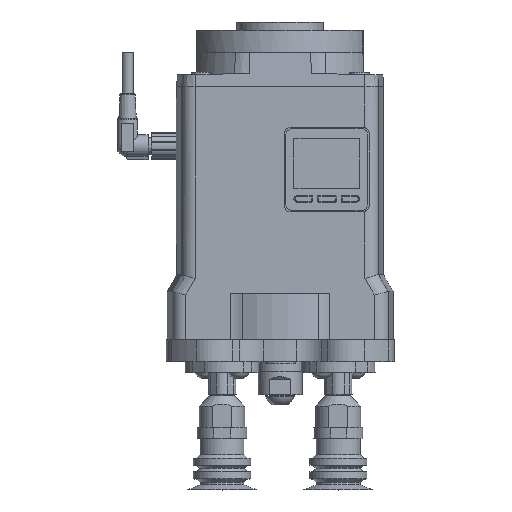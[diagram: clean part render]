
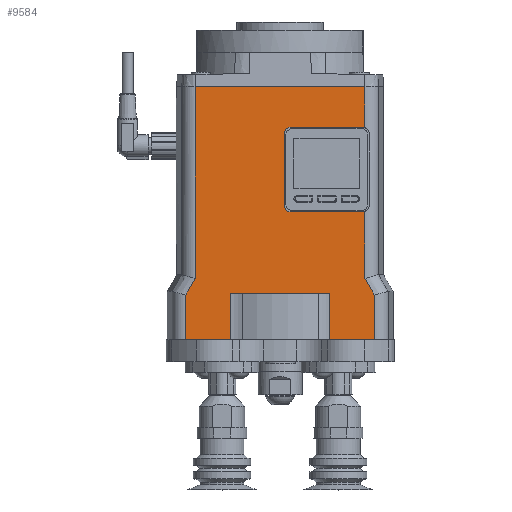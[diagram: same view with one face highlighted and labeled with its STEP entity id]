
A CAD part, top view. The second image highlights one B-rep face of the part: STEP entity #9584.
In plain terms, the highlighted planar face has unit normal (0, 0, 1).
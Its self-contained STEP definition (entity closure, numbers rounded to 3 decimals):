
#545=B_SPLINE_CURVE_WITH_KNOTS('',3,(#14973,#14974,#14975,#14976),
 .UNSPECIFIED.,.F.,.F.,(4,4),(0.,0.007),.UNSPECIFIED.);
#546=B_SPLINE_CURVE_WITH_KNOTS('',3,(#14992,#14993,#14994,#14995),
 .UNSPECIFIED.,.F.,.F.,(4,4),(0.,0.007),.UNSPECIFIED.);
#678=LINE('',#14950,#1363);
#679=LINE('',#14955,#1364);
#680=LINE('',#14959,#1365);
#681=LINE('',#14963,#1366);
#682=LINE('',#14967,#1367);
#683=LINE('',#14969,#1368);
#684=LINE('',#14971,#1369);
#685=LINE('',#14978,#1370);
#686=LINE('',#14980,#1371);
#687=LINE('',#14982,#1372);
#688=LINE('',#14984,#1373);
#689=LINE('',#14986,#1374);
#690=LINE('',#14988,#1375);
#691=LINE('',#14990,#1376);
#1363=VECTOR('',#11730,1000.);
#1364=VECTOR('',#11733,1000.);
#1365=VECTOR('',#11736,1000.);
#1366=VECTOR('',#11739,1000.);
#1367=VECTOR('',#11742,1000.);
#1368=VECTOR('',#11743,1000.);
#1369=VECTOR('',#11744,1000.);
#1370=VECTOR('',#11745,1000.);
#1371=VECTOR('',#11746,1000.);
#1372=VECTOR('',#11747,1000.);
#1373=VECTOR('',#11748,1000.);
#1374=VECTOR('',#11749,1000.);
#1375=VECTOR('',#11750,1000.);
#1376=VECTOR('',#11751,1000.);
#2110=ORIENTED_EDGE('',*,*,#4738,.T.);
#2111=ORIENTED_EDGE('',*,*,#4739,.T.);
#2112=ORIENTED_EDGE('',*,*,#4740,.T.);
#2113=ORIENTED_EDGE('',*,*,#4741,.T.);
#2114=ORIENTED_EDGE('',*,*,#4742,.T.);
#2115=ORIENTED_EDGE('',*,*,#4743,.T.);
#2116=ORIENTED_EDGE('',*,*,#4744,.T.);
#2117=ORIENTED_EDGE('',*,*,#4745,.T.);
#2118=ORIENTED_EDGE('',*,*,#4746,.T.);
#2119=ORIENTED_EDGE('',*,*,#4747,.F.);
#2120=ORIENTED_EDGE('',*,*,#4748,.T.);
#2121=ORIENTED_EDGE('',*,*,#4749,.T.);
#2122=ORIENTED_EDGE('',*,*,#4750,.T.);
#2123=ORIENTED_EDGE('',*,*,#4751,.F.);
#2124=ORIENTED_EDGE('',*,*,#4752,.F.);
#2125=ORIENTED_EDGE('',*,*,#4753,.F.);
#2126=ORIENTED_EDGE('',*,*,#4754,.T.);
#2127=ORIENTED_EDGE('',*,*,#4755,.F.);
#2128=ORIENTED_EDGE('',*,*,#4756,.T.);
#2129=ORIENTED_EDGE('',*,*,#4757,.T.);
#4738=EDGE_CURVE('',#6047,#6048,#678,.T.);
#4739=EDGE_CURVE('',#6048,#6049,#6931,.F.);
#4740=EDGE_CURVE('',#6049,#6050,#679,.T.);
#4741=EDGE_CURVE('',#6050,#6051,#6932,.F.);
#4742=EDGE_CURVE('',#6051,#6052,#680,.T.);
#4743=EDGE_CURVE('',#6052,#6053,#6933,.F.);
#4744=EDGE_CURVE('',#6053,#6054,#681,.T.);
#4745=EDGE_CURVE('',#6054,#6055,#6934,.F.);
#4746=EDGE_CURVE('',#6055,#6056,#682,.T.);
#4747=EDGE_CURVE('',#6057,#6056,#683,.T.);
#4748=EDGE_CURVE('',#6057,#6058,#684,.F.);
#4749=EDGE_CURVE('',#6058,#6059,#545,.T.);
#4750=EDGE_CURVE('',#6059,#6060,#685,.F.);
#4751=EDGE_CURVE('',#6061,#6060,#686,.T.);
#4752=EDGE_CURVE('',#6062,#6061,#687,.T.);
#4753=EDGE_CURVE('',#6063,#6062,#688,.T.);
#4754=EDGE_CURVE('',#6063,#6064,#689,.T.);
#4755=EDGE_CURVE('',#6065,#6064,#690,.T.);
#4756=EDGE_CURVE('',#6065,#6066,#691,.T.);
#4757=EDGE_CURVE('',#6066,#6047,#546,.T.);
#6047=VERTEX_POINT('',#14951);
#6048=VERTEX_POINT('',#14952);
#6049=VERTEX_POINT('',#14954);
#6050=VERTEX_POINT('',#14956);
#6051=VERTEX_POINT('',#14958);
#6052=VERTEX_POINT('',#14960);
#6053=VERTEX_POINT('',#14962);
#6054=VERTEX_POINT('',#14964);
#6055=VERTEX_POINT('',#14966);
#6056=VERTEX_POINT('',#14968);
#6057=VERTEX_POINT('',#14970);
#6058=VERTEX_POINT('',#14972);
#6059=VERTEX_POINT('',#14977);
#6060=VERTEX_POINT('',#14979);
#6061=VERTEX_POINT('',#14981);
#6062=VERTEX_POINT('',#14983);
#6063=VERTEX_POINT('',#14985);
#6064=VERTEX_POINT('',#14987);
#6065=VERTEX_POINT('',#14989);
#6066=VERTEX_POINT('',#14991);
#6931=CIRCLE('',#10416,2.5);
#6932=CIRCLE('',#10417,2.5);
#6933=CIRCLE('',#10418,2.5);
#6934=CIRCLE('',#10419,2.5);
#7421=EDGE_LOOP('',(#2110,#2111,#2112,#2113,#2114,#2115,#2116,#2117,#2118,
#2119,#2120,#2121,#2122,#2123,#2124,#2125,#2126,#2127,#2128,#2129));
#8338=FACE_BOUND('',#7421,.T.);
#9235=PLANE('',#10415);
#9584=ADVANCED_FACE('',(#8338),#9235,.T.);
#10415=AXIS2_PLACEMENT_3D('',#14949,#11728,#11729);
#10416=AXIS2_PLACEMENT_3D('',#14953,#11731,#11732);
#10417=AXIS2_PLACEMENT_3D('',#14957,#11734,#11735);
#10418=AXIS2_PLACEMENT_3D('',#14961,#11737,#11738);
#10419=AXIS2_PLACEMENT_3D('',#14965,#11740,#11741);
#11728=DIRECTION('',(0.,0.,1.));
#11729=DIRECTION('',(1.,0.,0.));
#11730=DIRECTION('',(0.,1.,0.));
#11731=DIRECTION('',(0.,0.,1.));
#11732=DIRECTION('',(1.,0.,0.));
#11733=DIRECTION('',(-1.,0.,0.));
#11734=DIRECTION('',(0.,0.,1.));
#11735=DIRECTION('',(1.,0.,0.));
#11736=DIRECTION('',(0.,1.,0.));
#11737=DIRECTION('',(0.,0.,1.));
#11738=DIRECTION('',(1.,0.,0.));
#11739=DIRECTION('',(1.,0.,0.));
#11740=DIRECTION('',(0.,0.,1.));
#11741=DIRECTION('',(1.,0.,0.));
#11742=DIRECTION('',(0.,1.,0.));
#11743=DIRECTION('',(1.,0.,0.));
#11744=DIRECTION('',(0.,1.,0.));
#11745=DIRECTION('',(0.,1.,0.));
#11746=DIRECTION('',(-1.,0.,0.));
#11747=DIRECTION('',(0.,-1.,0.));
#11748=DIRECTION('',(-1.,0.,0.));
#11749=DIRECTION('',(0.,-1.,0.));
#11750=DIRECTION('',(-1.,0.,0.));
#11751=DIRECTION('',(0.,1.,0.));
#14949=CARTESIAN_POINT('',(-35.101,-113.,29.));
#14950=CARTESIAN_POINT('',(30.95,-113.,29.));
#14951=CARTESIAN_POINT('',(30.95,-90.678,29.));
#14952=CARTESIAN_POINT('',(30.95,-66.232,29.));
#14953=CARTESIAN_POINT('',(30.05,-63.9,29.));
#14954=CARTESIAN_POINT('',(30.05,-66.4,29.));
#14955=CARTESIAN_POINT('',(-35.101,-66.4,29.));
#14956=CARTESIAN_POINT('',(4.05,-66.4,29.));
#14957=CARTESIAN_POINT('',(4.05,-63.9,29.));
#14958=CARTESIAN_POINT('',(1.55,-63.9,29.));
#14959=CARTESIAN_POINT('',(1.55,-113.,29.));
#14960=CARTESIAN_POINT('',(1.55,-37.9,29.));
#14961=CARTESIAN_POINT('',(4.05,-37.9,29.));
#14962=CARTESIAN_POINT('',(4.05,-35.4,29.));
#14963=CARTESIAN_POINT('',(-35.101,-35.4,29.));
#14964=CARTESIAN_POINT('',(30.05,-35.4,29.));
#14965=CARTESIAN_POINT('',(30.05,-37.9,29.));
#14966=CARTESIAN_POINT('',(30.95,-35.568,29.));
#14967=CARTESIAN_POINT('',(30.95,-113.,29.));
#14968=CARTESIAN_POINT('',(30.95,-20.6,29.));
#14969=CARTESIAN_POINT('',(-48.396,-20.6,29.));
#14970=CARTESIAN_POINT('',(-30.95,-20.6,29.));
#14971=CARTESIAN_POINT('',(-30.95,-113.,29.));
#14972=CARTESIAN_POINT('',(-30.95,-90.678,29.));
#14973=CARTESIAN_POINT('',(-30.95,-90.678,29.));
#14974=CARTESIAN_POINT('',(-32.134,-92.698,29.));
#14975=CARTESIAN_POINT('',(-33.317,-94.719,29.));
#14976=CARTESIAN_POINT('',(-34.5,-96.74,29.));
#14977=CARTESIAN_POINT('',(-34.5,-96.74,29.));
#14978=CARTESIAN_POINT('',(-34.5,-113.,29.));
#14979=CARTESIAN_POINT('',(-34.5,-113.,29.));
#14980=CARTESIAN_POINT('',(108.5,-113.,29.));
#14981=CARTESIAN_POINT('',(-18.111,-113.,29.));
#14982=CARTESIAN_POINT('',(-18.111,-96.2,29.));
#14983=CARTESIAN_POINT('',(-18.111,-96.2,29.));
#14984=CARTESIAN_POINT('',(-35.101,-96.2,29.));
#14985=CARTESIAN_POINT('',(18.111,-96.2,29.));
#14986=CARTESIAN_POINT('',(18.111,-96.2,29.));
#14987=CARTESIAN_POINT('',(18.111,-113.,29.));
#14988=CARTESIAN_POINT('',(108.5,-113.,29.));
#14989=CARTESIAN_POINT('',(34.5,-113.,29.));
#14990=CARTESIAN_POINT('',(34.5,-95.4,29.));
#14991=CARTESIAN_POINT('',(34.5,-96.74,29.));
#14992=CARTESIAN_POINT('',(34.5,-96.74,29.));
#14993=CARTESIAN_POINT('',(33.317,-94.719,29.));
#14994=CARTESIAN_POINT('',(32.134,-92.698,29.));
#14995=CARTESIAN_POINT('',(30.95,-90.678,29.));
